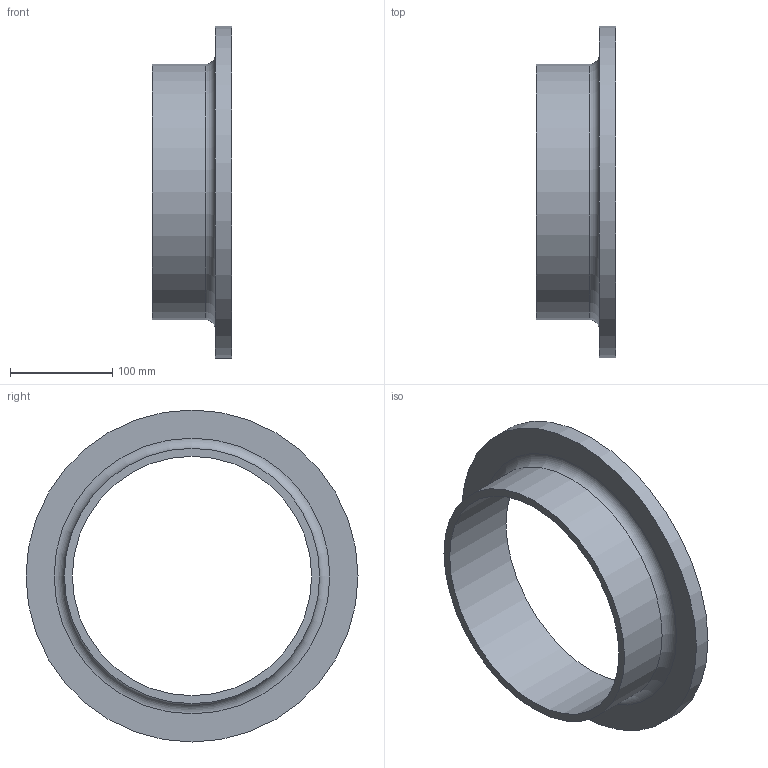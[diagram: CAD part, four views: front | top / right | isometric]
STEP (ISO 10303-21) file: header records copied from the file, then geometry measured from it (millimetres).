
FILE_DESCRIPTION((''),'2;1');
FILE_NAME('F:\Geberit_PE\Export\PE Vorschweissbund 3\stp\371744.stp','2011-03-17T21:46:05',(''),(''),'Autodesk Inventor 2011','Autodesk Inventor 2011','');
FILE_SCHEMA(('AUTOMOTIVE_DESIGN { 1 2 10303 214 0 1 1 1 }'));
Length unit declared in the file: millimetre
Products named in the file (1): 371744
Bounding box: 78 x 325 x 325 mm (x, y, z)
Volume: 1019360.1 mm3; surface area: 200947.4 mm2
Topology: 1 solids, 1 shells, 16 faces, 26 edges, 16 vertices
Faces by surface type: plane 6, cone 6, cylinder 3, torus 1
Full cylindrical faces by diameter (mm): 234.4 x1, 250 x1, 325 x1
Entity records: 354 total; most frequent: DIRECTION 66, CARTESIAN_POINT 49, AXIS2_PLACEMENT_3D 33, ORIENTED_EDGE 32, EDGE_LOOP 32, VERTEX_POINT 16, CIRCLE 16, EDGE_CURVE 16
